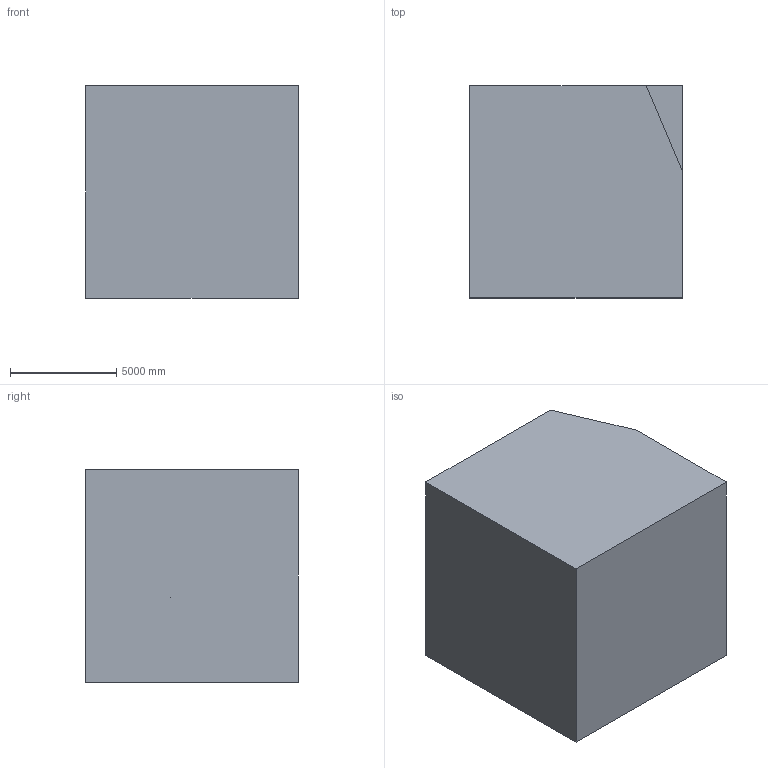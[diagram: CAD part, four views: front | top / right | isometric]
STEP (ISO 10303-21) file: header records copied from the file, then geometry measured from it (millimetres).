
FILE_DESCRIPTION (( 'STEP AP203' ), '1' );
FILE_NAME ('1050.STEP', '2022-08-25T14:40:02', ( 'user' ), ( '' ), 'SwSTEP 2.0', 'SolidWorks 2021', '' );
FILE_SCHEMA (( 'CONFIG_CONTROL_DESIGN' ));
Length unit declared in the file: centimetre
Products named in the file (1): 1050
Bounding box: 10000 x 10000 x 10000 mm (x, y, z)
Volume: 917907015630.1 mm3; surface area: 624232131.1 mm2
Topology: 1 solids, 1 shells, 12 faces, 30 edges, 20 vertices
Faces by surface type: plane 11, cylinder 1
Entity records: 433 total; most frequent: CARTESIAN_POINT 63, ORIENTED_EDGE 60, DIRECTION 58, EDGE_CURVE 30, VECTOR 28, LINE 28, VERTEX_POINT 20, AXIS2_PLACEMENT_3D 15
